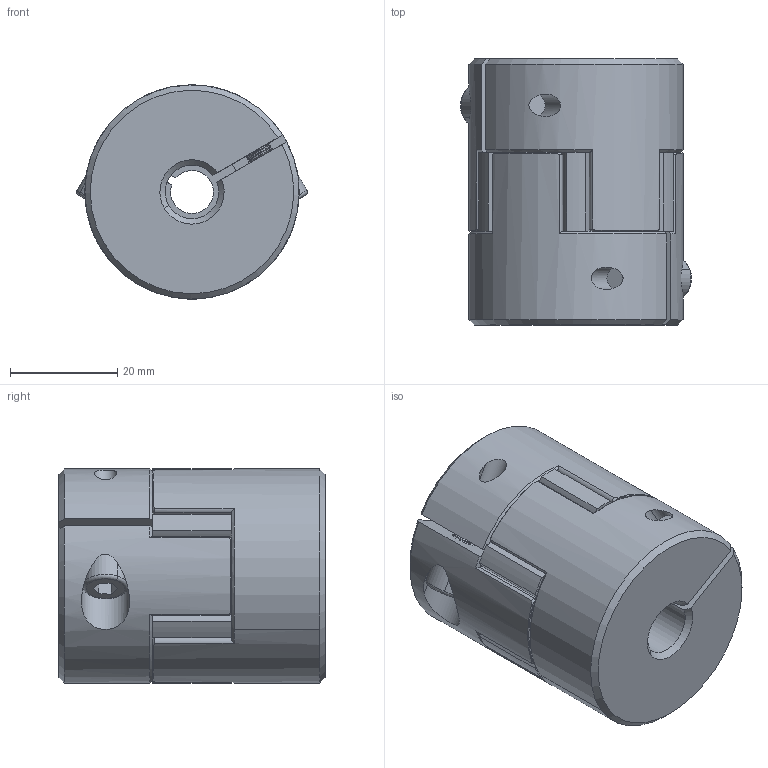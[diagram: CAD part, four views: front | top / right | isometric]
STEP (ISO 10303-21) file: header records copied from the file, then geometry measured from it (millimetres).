
FILE_DESCRIPTION (( 'STEP AP203' ), '1' );
FILE_NAME ('LF-B-D40L50-8-10.STEP', '2021-10-25T02:33:56', ( '' ), ( '' ), 'SwSTEP 2.0', 'SolidWorks 2018', '' );
FILE_SCHEMA (( 'CONFIG_CONTROL_DESIGN' ));
Length unit declared in the file: millimetre
Products named in the file (1): LF-B-D40L50-8-10
Bounding box: 43.11 x 49.7 x 40 mm (x, y, z)
Volume: 54562.1 mm3; surface area: 14640 mm2
Topology: 1 solids, 7 shells, 471 faces, 1117 edges, 662 vertices
Faces by surface type: cone 170, cylinder 169, plane 128, torus 4
Entity records: 13972 total; most frequent: CARTESIAN_POINT 2895, DIRECTION 2509, ORIENTED_EDGE 2226, EDGE_CURVE 1113, AXIS2_PLACEMENT_3D 1040, VERTEX_POINT 662, CIRCLE 568, EDGE_LOOP 487
